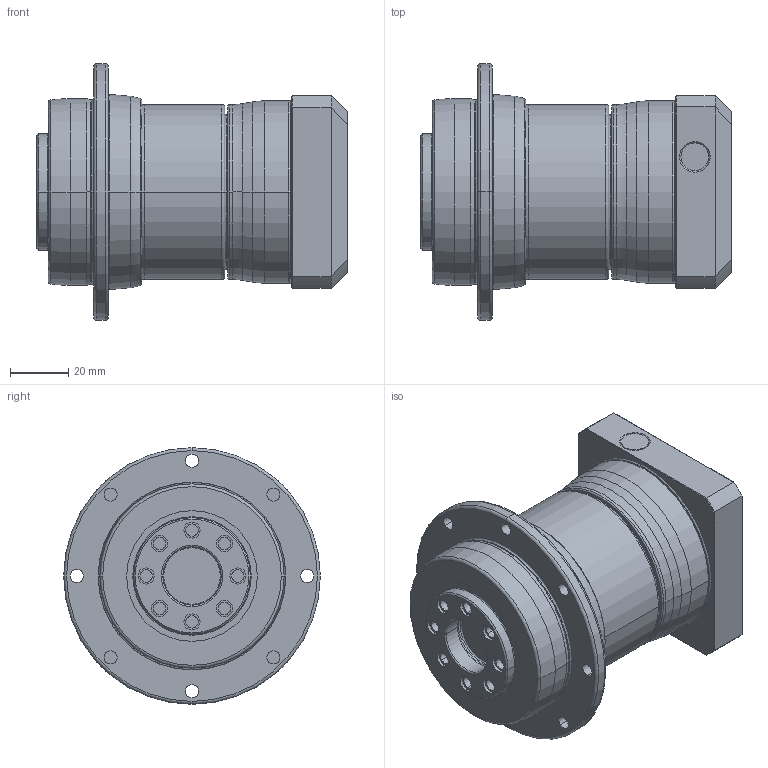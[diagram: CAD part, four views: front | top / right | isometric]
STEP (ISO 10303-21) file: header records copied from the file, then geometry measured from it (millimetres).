
FILE_DESCRIPTION((''),'2;1');
FILE_NAME('PD064_2ST_14-P0411300101_ASM','2016-06-03T',('d01943'),(''),'PRO/ENGINEER BY PARAMETRIC TECHNOLOGY CORPORATION, 2008410','PRO/ENGINEER BY PARAMETRIC TECHNOLOGY CORPORATION, 2008410','');
FILE_SCHEMA(('CONFIG_CONTROL_DESIGN'));
Length unit declared in the file: millimetre
Products named in the file (8): P1355200001; P0367200001; P0275200001; P1324200201; P0411300101; P0503300005; P0941202001; PD064_2ST_14-P0411300101_ASM
Assembly tree (7 placements, depth 2):
  PD064_2ST_14-P0411300101_ASM
    P1355200001
    P0367200001
    P0275200001
    P1324200201
    P0411300101
    P0503300005
    P0941202001
Bounding box: 106.5 x 88 x 88 mm (x, y, z)
Volume: 323313.9 mm3; surface area: 74112.5 mm2
Topology: 7 solids, 7 shells, 383 faces, 869 edges, 514 vertices
Faces by surface type: cylinder 133, cone 90, torus 78, plane 66, bspline 16
Entity records: 15243 total; most frequent: CARTESIAN_POINT 6340, DIRECTION 2009, ORIENTED_EDGE 1702, AXIS2_PLACEMENT_3D 867, EDGE_CURVE 851, VERTEX_POINT 514, CIRCLE 485, EDGE_LOOP 455
